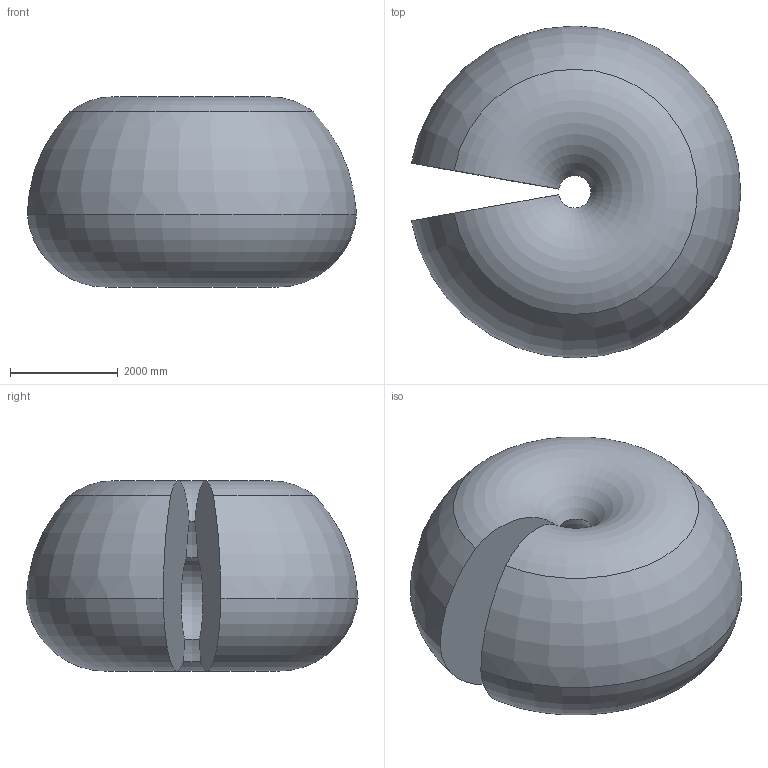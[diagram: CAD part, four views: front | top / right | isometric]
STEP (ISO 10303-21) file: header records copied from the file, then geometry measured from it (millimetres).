
FILE_DESCRIPTION (( 'STEP AP214' ), '1' );
FILE_NAME ('IRB7710_All-310_OC_00_Working-space.step', '2026-01-28T09:15:50', ( '' ), ( '' ), 'SwSTEP 2.0', 'SolidWorks 2024', '' );
FILE_SCHEMA (( 'AUTOMOTIVE_DESIGN' ));
Length unit declared in the file: millimetre
Products named in the file (1): IRB7710_All-310_OC_00_Working-space
Bounding box: 6103.23 x 6149.95 x 3522.62 mm (x, y, z)
Volume: 70840701525.7 mm3; surface area: 118749770.6 mm2
Topology: 1 solids, 1 shells, 8 faces, 18 edges, 12 vertices
Faces by surface type: torus 6, plane 2
Entity records: 263 total; most frequent: DIRECTION 54, CARTESIAN_POINT 39, ORIENTED_EDGE 36, AXIS2_PLACEMENT_3D 27, CIRCLE 18, EDGE_CURVE 18, VERTEX_POINT 12, EDGE_LOOP 8
